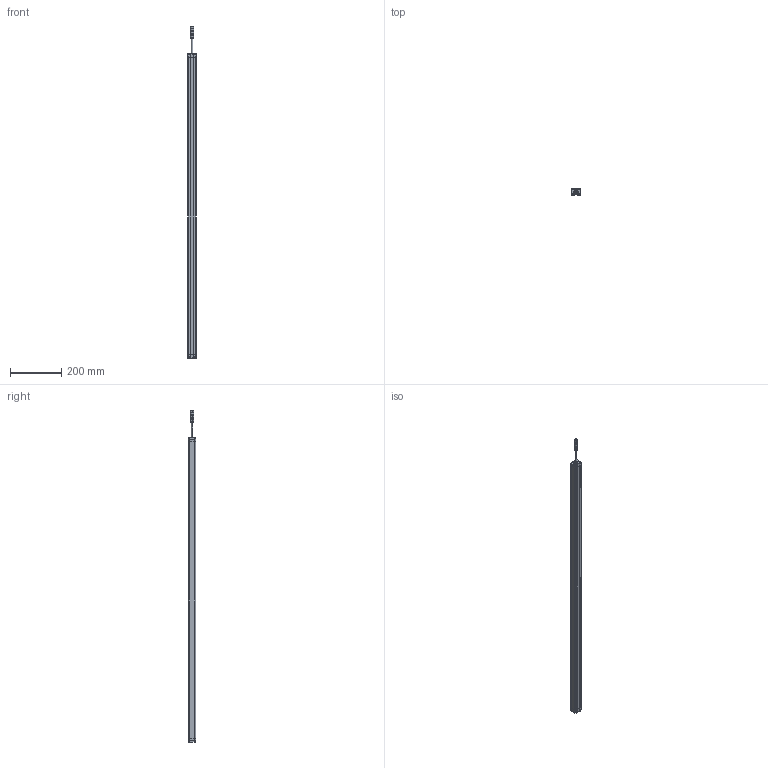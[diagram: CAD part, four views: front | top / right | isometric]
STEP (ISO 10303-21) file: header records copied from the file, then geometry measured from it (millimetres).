
FILE_DESCRIPTION((''),'2;1');
FILE_NAME('SMT1-CGQ_ASM','2025-08-08T08:39:25',('Administrator'),(''),'CREO PARAMETRIC BY PTC INC, 2016510','CREO PARAMETRIC BY PTC INC, 2016510','');
FILE_SCHEMA(('CONFIG_CONTROL_DESIGN'));
Length unit declared in the file: millimetre
Products named in the file (7): SMT1-XINGCAI-V1; SMT1-SDG-V1; SMT1-XDG-V1; M12-CHATOU; ST3X18; CT4-LVGUANGBAN; SMT1-CGQ_ASM
Assembly tree (13 placements, depth 2):
  SMT1-CGQ_ASM
    SMT1-XINGCAI-V1
    SMT1-SDG-V1
    SMT1-XDG-V1
    M12-CHATOU
    ST3X18  x8
    CT4-LVGUANGBAN
Bounding box: 33 x 28.02 x 1299.5 mm (x, y, z)
Volume: 921480.1 mm3; surface area: 296233.8 mm2
Topology: 13 solids, 13 shells, 712 faces, 1868 edges, 1200 vertices
Faces by surface type: plane 382, cylinder 184, extrusion 86, sphere 32, cone 20, bspline 8
Entity records: 18128 total; most frequent: CARTESIAN_POINT 4347, ORIENTED_EDGE 2916, DIRECTION 2580, EDGE_CURVE 1458, VECTOR 1036, VERTEX_POINT 955, LINE 950, AXIS2_PLACEMENT_3D 772
